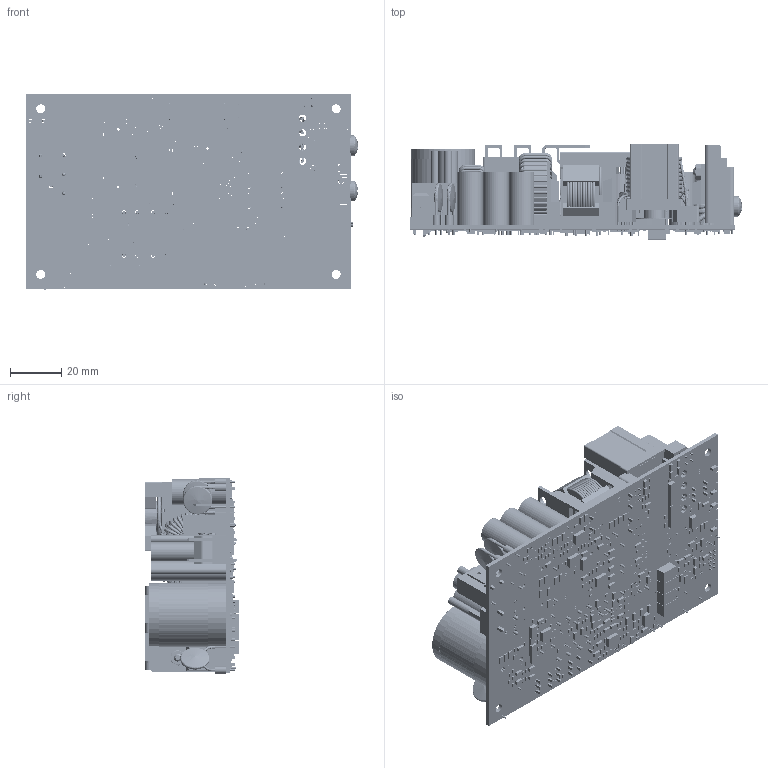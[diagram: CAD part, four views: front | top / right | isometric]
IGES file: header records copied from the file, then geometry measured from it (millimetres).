
Start section: SolidWorks IGES file using analytic representation for surfaces
Global section: file name: H:\CCB200\MECHANICAL\IGES\CCB200.IGS; native system: SolidWorks 2013; preprocessor: SolidWorks 2013; author: mbeeson; date: 131004.101109; units: millimetre
Bounding box: 129.88 x 37.05 x 76.48 mm (x, y, z)
Surface area: 130322.3 mm2 (no closed solid volume)
Topology: 0 solids, 0 shells, 7167 faces, 64427 edges, 64378 vertices
Faces by surface type: bspline 4785, revolution 2382
